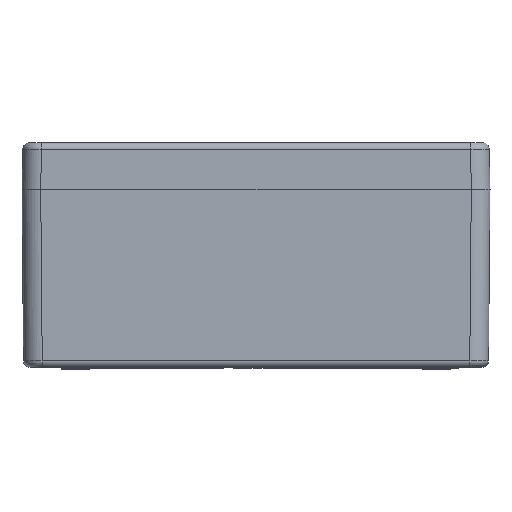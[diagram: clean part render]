
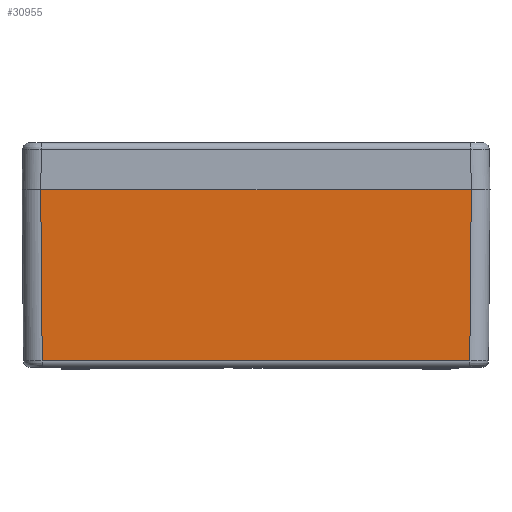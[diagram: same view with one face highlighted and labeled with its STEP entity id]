
A CAD part, left-side view. The second image highlights one B-rep face of the part: STEP entity #30955.
In plain terms, the highlighted planar face has unit normal (-1, 0, -0.009).
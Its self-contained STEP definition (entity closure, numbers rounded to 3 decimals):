
#449 = FACE_OUTER_BOUND ( 'NONE', #26683, .T. ) ;
#3063 = DIRECTION ( 'NONE',  ( -1., 0., -0.009 ) ) ;
#3069 = VECTOR ( 'NONE', #30957, 1000. ) ;
#3740 = CARTESIAN_POINT ( 'NONE',  ( -127.5, 115., 0. ) ) ;
#3896 = VECTOR ( 'NONE', #18824, 1000. ) ;
#4362 = ORIENTED_EDGE ( 'NONE', *, *, #4525, .T. ) ;
#4525 = EDGE_CURVE ( 'NONE', #27666, #17973, #13309, .T. ) ;
#5941 = CARTESIAN_POINT ( 'NONE',  ( -127.5, -125., 0. ) ) ;
#6522 = VERTEX_POINT ( 'NONE', #13859 ) ;
#6696 = LINE ( 'NONE', #20606, #3069 ) ;
#7122 = ORIENTED_EDGE ( 'NONE', *, *, #7856, .F. ) ;
#7856 = EDGE_CURVE ( 'NONE', #6522, #17973, #25851, .T. ) ;
#8147 = DIRECTION ( 'NONE',  ( -0.009, 0., 1. ) ) ;
#9986 = EDGE_CURVE ( 'NONE', #23641, #27666, #16031, .T. ) ;
#13309 = LINE ( 'NONE', #5941, #31655 ) ;
#13852 = DIRECTION ( 'NONE',  ( 0., 1., 0. ) ) ;
#13859 = CARTESIAN_POINT ( 'NONE',  ( -126.701, 114.202, -91.531 ) ) ;
#15602 = VECTOR ( 'NONE', #28249, 1000. ) ;
#16031 = LINE ( 'NONE', #33006, #15602 ) ;
#16334 = CARTESIAN_POINT ( 'NONE',  ( -127.482, 114.982, -2.094 ) ) ;
#17973 = VERTEX_POINT ( 'NONE', #3740 ) ;
#18582 = CARTESIAN_POINT ( 'NONE',  ( -127.5, -125., 0. ) ) ;
#18803 = PLANE ( 'NONE',  #19237 ) ;
#18824 = DIRECTION ( 'NONE',  ( -0.009, 0.009, 1. ) ) ;
#19237 = AXIS2_PLACEMENT_3D ( 'NONE', #18582, #3063, #8147 ) ;
#20606 = CARTESIAN_POINT ( 'NONE',  ( -126.701, 125., -91.531 ) ) ;
#22421 = CARTESIAN_POINT ( 'NONE',  ( -126.701, -114.202, -91.531 ) ) ;
#23641 = VERTEX_POINT ( 'NONE', #22421 ) ;
#25051 = ORIENTED_EDGE ( 'NONE', *, *, #25759, .F. ) ;
#25759 = EDGE_CURVE ( 'NONE', #23641, #6522, #6696, .T. ) ;
#25851 = LINE ( 'NONE', #16334, #3896 ) ;
#26683 = EDGE_LOOP ( 'NONE', ( #28094, #4362, #7122, #25051 ) ) ;
#27666 = VERTEX_POINT ( 'NONE', #31363 ) ;
#28094 = ORIENTED_EDGE ( 'NONE', *, *, #9986, .T. ) ;
#28249 = DIRECTION ( 'NONE',  ( -0.009, -0.009, 1. ) ) ;
#30955 = ADVANCED_FACE ( 'NONE', ( #449 ), #18803, .T. ) ;
#30957 = DIRECTION ( 'NONE',  ( 0., 1., 0. ) ) ;
#31363 = CARTESIAN_POINT ( 'NONE',  ( -127.5, -115., 0. ) ) ;
#31655 = VECTOR ( 'NONE', #13852, 1000. ) ;
#33006 = CARTESIAN_POINT ( 'NONE',  ( -126.701, -114.202, -91.531 ) ) ;
